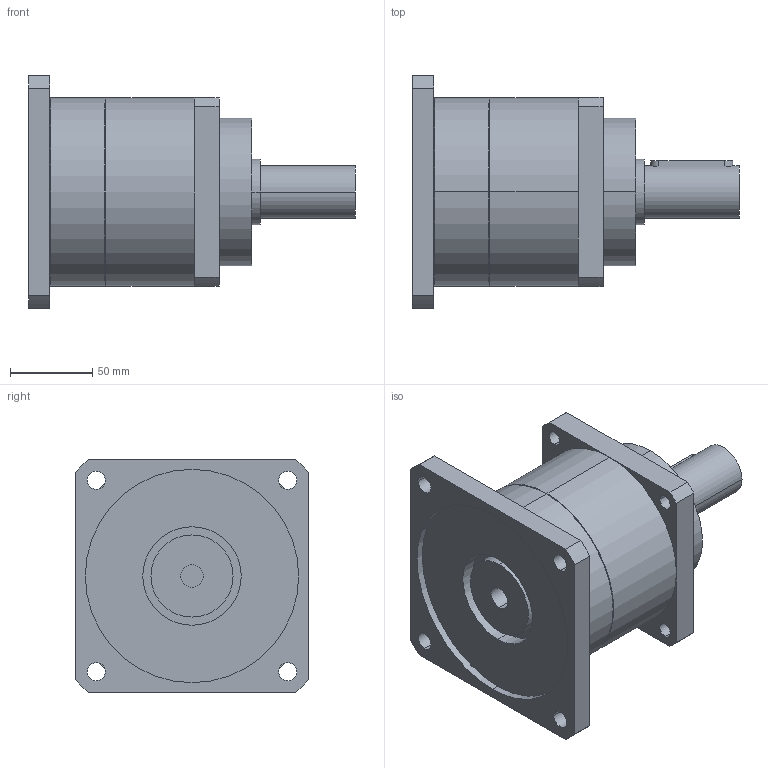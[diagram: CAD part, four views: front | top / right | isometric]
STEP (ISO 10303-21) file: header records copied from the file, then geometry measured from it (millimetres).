
FILE_DESCRIPTION(('CoCreate Modeling STEP Export'),'2;1');
FILE_NAME('GPT120_ig-3-4-5-7-10_32_B5A_14_P08.stp','2015-02-04T16:07:17',(''),(''),'CoCreate Modeling STEP processor for AP214 (Solid Model)','CoCreate Modeling 16.00C 25-Feb-2009 (C) Parametric Technology GmbH','');
FILE_SCHEMA(('AUTOMOTIVE_DESIGN { 1 0 10303 214 1 1 1 1 }'));
Length unit declared in the file: millimetre
Products named in the file (2): GPT120_ig-3-4-5-7-10_32_B5A_14_P08
Assembly tree (1 placements, depth 2):
  GPT120_ig-3-4-5-7-10_32_B5A_14_P08
    GPT120_ig-3-4-5-7-10_32_B5A_14_P08
Bounding box: 199 x 142 x 142 mm (x, y, z)
Volume: 1467787.8 mm3; surface area: 113257.9 mm2
Topology: 1 solids, 1 shells, 77 faces, 207 edges, 142 vertices
Faces by surface type: cylinder 46, plane 27, cone 4
Entity records: 2583 total; most frequent: CARTESIAN_POINT 762, ORIENTED_EDGE 414, DIRECTION 320, EDGE_CURVE 207, VERTEX_POINT 142, AXIS2_PLACEMENT_3D 118, EDGE_LOOP 103, VECTOR 84
